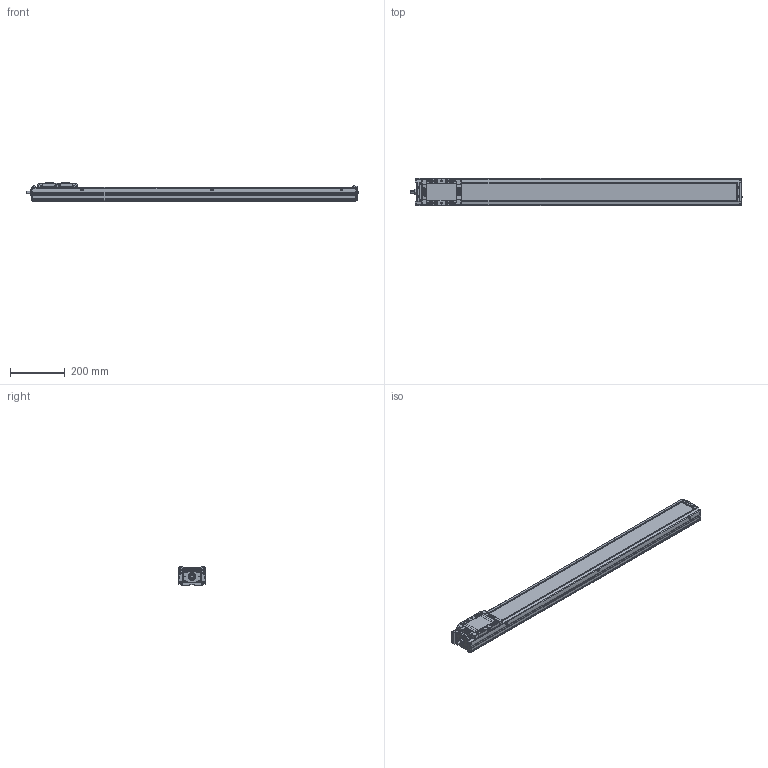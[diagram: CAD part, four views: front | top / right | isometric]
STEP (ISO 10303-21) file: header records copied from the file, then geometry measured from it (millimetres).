
FILE_DESCRIPTION(('STEP AP214'),'1');
FILE_NAME('Z:/Web/3D/SAN100/SAN100 양산용 (STEP)/SAN100ㅁㅁ-1000.stp','2013-04-30T04:59:01',(' '),(' '),'Spatial InterOp 3D',' ',' ');
FILE_SCHEMA(('automotive_design'));
Length unit declared in the file: millimetre
Products named in the file (36): SUS COVER; SFX-SAN100; RRCV-SAN100; 스크루 : Round - M4.0 x 10.0; M3.0 x 6.0; 스크루 : Round - M3.0 x 6.0; FRBL-SAN100; SLBL-SAN100; SLCV-SAN100; 스크루 : Countersunk - M3.0 x 6.0; BASE; 스크루 : Round - M5.0 x 6.0; 너트 : Square - M10.0 x 220.7419; RR1500-000L; FRCV-SAN100
Bounding box: 1216 x 100 x 66 mm (x, y, z)
Volume: 3146577.7 mm3; surface area: 757960.8 mm2
Topology: 36 solids, 37 shells, 2116 faces, 5528 edges, 3543 vertices
Faces by surface type: plane 1003, cylinder 809, cone 218, sphere 48, torus 26, bspline 12
Entity records: 83679 total; most frequent: CARTESIAN_POINT 12933, DIRECTION 11627, ORIENTED_EDGE 10844, EDGE_CURVE 5422, AXIS2_PLACEMENT_3D 4218, VERTEX_POINT 3543, LINE 3191, VECTOR 3191
